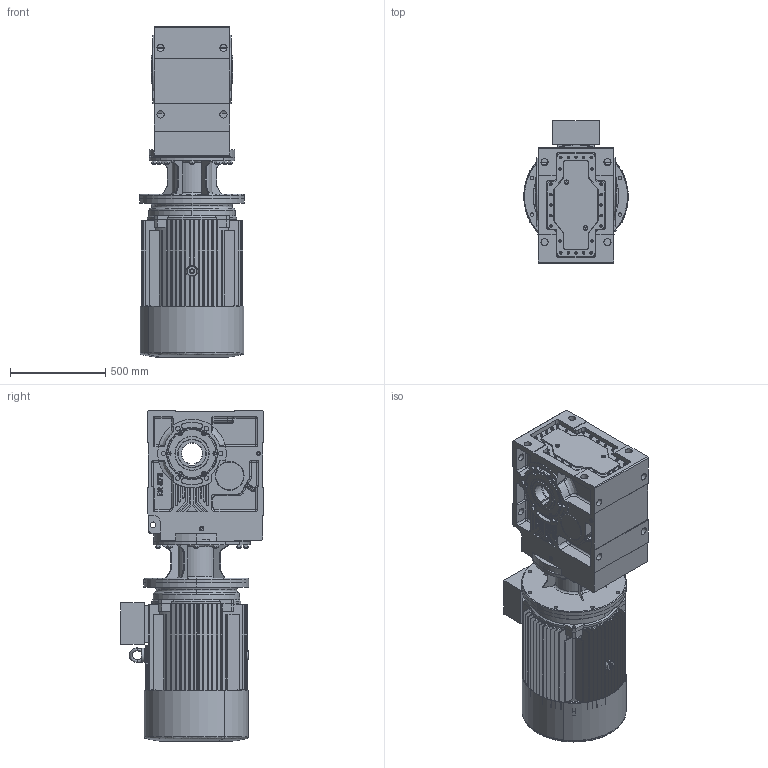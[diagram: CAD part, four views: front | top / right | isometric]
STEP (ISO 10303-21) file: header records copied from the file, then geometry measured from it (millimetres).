
FILE_DESCRIPTION (( 'STEP AP203' ), '1' );
FILE_NAME ('KV_873_0_M3-280S-4.STEP', '2019-07-18T08:11:42', ( '' ), ( '' ), 'SwSTEP 2.0', 'SolidWorks 2012', '' );
FILE_SCHEMA (( 'CONFIG_CONTROL_DESIGN' ));
Length unit declared in the file: millimetre
Products named in the file (13): KV_873_0_M3-280S-4; 280ﾁｧ+ﾀ_-ｼ+､; Y2-280S-4,6 B5; Y2-280-4-ｦﾈﾁﾂ-ｩﾃ_-ｼ+､; Y2-280S+ｷﾎｨB5_-ｼ+､; Y2-280ｦｾﾂ-ｩﾃ_-ｼ+､; Y2-280-4.6.8ﾀiﾍ_-ｼ+､; KN_87_3_0_A-B280_B5_ML23A_0_0_0_0_0_0_0_0_0_0_0_0_M1; ML23A_Varsayìlan; Y2-280S.M-4.6.8ﾍﾟ_-ｼ+､; Ã¦Íß¦ð-Ô©ÃY2-280-4_-¼+¤; 83A280B5_Varsayìlan; K873_Varsayìlan
Assembly tree (12 placements, depth 3):
  KV_873_0_M3-280S-4
    KN_87_3_0_A-B280_B5_ML23A_0_0_0_0_0_0_0_0_0_0_0_0_M1
      K873_Varsayìlan
      83A280B5_Varsayìlan
      ML23A_Varsayìlan
    Y2-280S-4,6 B5
      Ã¦Íß¦ð-Ô©ÃY2-280-4_-¼+¤
      Y2-280S.M-4.6.8ﾍﾟ_-ｼ+､
      Y2-280-4.6.8ﾀiﾍ_-ｼ+､
      Y2-280ｦｾﾂ-ｩﾃ_-ｼ+､
      Y2-280S+ｷﾎｨB5_-ｼ+､
      Y2-280-4-ｦﾈﾁﾂ-ｩﾃ_-ｼ+､
      280ﾁｧ+ﾀ_-ｼ+､
Bounding box: 550 x 750.5 x 1737.53 mm (x, y, z)
Volume: 50079911.4 mm3; surface area: 11161886.6 mm2
Topology: 9 solids, 56 shells, 3153 faces, 7986 edges, 5060 vertices
Faces by surface type: plane 1527, cylinder 931, cone 353, bspline 338, torus 4
Entity records: 113529 total; most frequent: CARTESIAN_POINT 36892, ORIENTED_EDGE 15756, DIRECTION 15700, EDGE_CURVE 7898, AXIS2_PLACEMENT_3D 5700, VERTEX_POINT 5053, LINE 4300, VECTOR 4300
